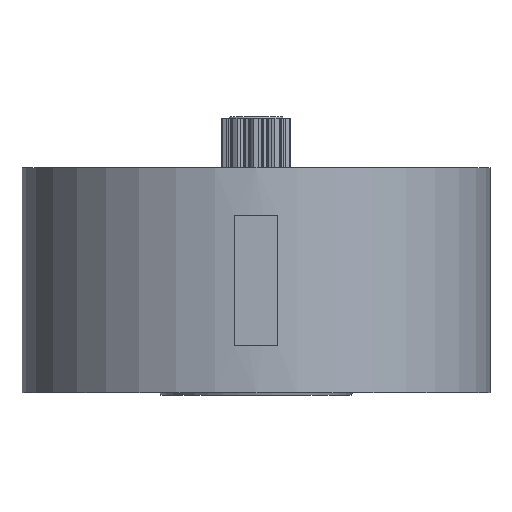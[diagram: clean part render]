
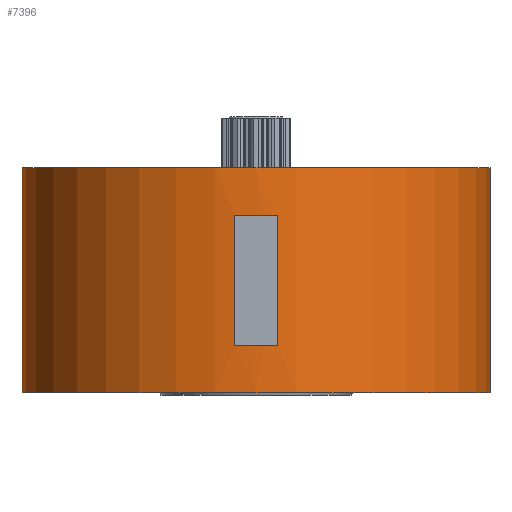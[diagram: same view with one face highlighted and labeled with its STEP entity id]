
A CAD part, front view. The second image highlights one B-rep face of the part: STEP entity #7396.
In plain terms, the highlighted cylindrical face has radius 27 mm (diameter 54 mm), a partial arc.
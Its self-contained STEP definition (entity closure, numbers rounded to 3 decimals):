
#200 = VERTEX_POINT ( 'NONE', #5334 ) ;
#337 = ORIENTED_EDGE ( 'NONE', *, *, #10873, .T. ) ;
#399 = EDGE_CURVE ( 'NONE', #5048, #7991, #8340, .T. ) ;
#451 = CARTESIAN_POINT ( 'NONE',  ( 0., 0., 13. ) ) ;
#528 = CARTESIAN_POINT ( 'NONE',  ( 0., 0., -13. ) ) ;
#1102 = VECTOR ( 'NONE', #6779, 1000. ) ;
#1525 = EDGE_CURVE ( 'NONE', #5048, #5588, #6934, .T. ) ;
#1539 = CARTESIAN_POINT ( 'NONE',  ( 0., 0., 7.5 ) ) ;
#1734 = DIRECTION ( 'NONE',  ( 0., 0., -1. ) ) ;
#1760 = EDGE_LOOP ( 'NONE', ( #8326, #4174, #3165, #337 ) ) ;
#1765 = CARTESIAN_POINT ( 'NONE',  ( 2.5, -26.884, -7.5 ) ) ;
#1854 = DIRECTION ( 'NONE',  ( -1., 0., 0. ) ) ;
#2198 = EDGE_CURVE ( 'NONE', #7991, #9820, #3423, .T. ) ;
#2272 = VECTOR ( 'NONE', #10233, 1000. ) ;
#2514 = DIRECTION ( 'NONE',  ( -1., 0., 0. ) ) ;
#2602 = DIRECTION ( 'NONE',  ( 1., 0., 0. ) ) ;
#2931 = AXIS2_PLACEMENT_3D ( 'NONE', #5391, #7265, #1854 ) ;
#2973 = DIRECTION ( 'NONE',  ( 1., 0., 0. ) ) ;
#2987 = CARTESIAN_POINT ( 'NONE',  ( 2.5, -26.884, 13. ) ) ;
#3084 = LINE ( 'NONE', #11118, #1102 ) ;
#3165 = ORIENTED_EDGE ( 'NONE', *, *, #10125, .T. ) ;
#3294 = ORIENTED_EDGE ( 'NONE', *, *, #1525, .T. ) ;
#3423 = CIRCLE ( 'NONE', #5424, 27. ) ;
#3631 = EDGE_CURVE ( 'NONE', #3881, #9856, #3084, .T. ) ;
#3881 = VERTEX_POINT ( 'NONE', #6275 ) ;
#4174 = ORIENTED_EDGE ( 'NONE', *, *, #4488, .F. ) ;
#4305 = CARTESIAN_POINT ( 'NONE',  ( -27., 0., 13. ) ) ;
#4488 = EDGE_CURVE ( 'NONE', #10431, #3881, #10024, .T. ) ;
#4500 = CARTESIAN_POINT ( 'NONE',  ( 27., 0., -13. ) ) ;
#4983 = CARTESIAN_POINT ( 'NONE',  ( -27., 0., 13. ) ) ;
#5048 = VERTEX_POINT ( 'NONE', #1765 ) ;
#5051 = LINE ( 'NONE', #6744, #2272 ) ;
#5119 = AXIS2_PLACEMENT_3D ( 'NONE', #5174, #11095, #2602 ) ;
#5143 = DIRECTION ( 'NONE',  ( 0., 0., -1. ) ) ;
#5174 = CARTESIAN_POINT ( 'NONE',  ( 0., 0., 13. ) ) ;
#5334 = CARTESIAN_POINT ( 'NONE',  ( -27., 0., -13. ) ) ;
#5391 = CARTESIAN_POINT ( 'NONE',  ( 0., 0., -7.5 ) ) ;
#5424 = AXIS2_PLACEMENT_3D ( 'NONE', #1539, #5143, #2514 ) ;
#5537 = ORIENTED_EDGE ( 'NONE', *, *, #399, .F. ) ;
#5588 = VERTEX_POINT ( 'NONE', #9796 ) ;
#5618 = CYLINDRICAL_SURFACE ( 'NONE', #7343, 27. ) ;
#5728 = DIRECTION ( 'NONE',  ( 0., 0., -1. ) ) ;
#5785 = FACE_BOUND ( 'NONE', #9415, .T. ) ;
#6275 = CARTESIAN_POINT ( 'NONE',  ( 27., 0., 13. ) ) ;
#6744 = CARTESIAN_POINT ( 'NONE',  ( -2.5, -26.884, 13. ) ) ;
#6779 = DIRECTION ( 'NONE',  ( 0., 0., -1. ) ) ;
#6934 = CIRCLE ( 'NONE', #2931, 27. ) ;
#7060 = CARTESIAN_POINT ( 'NONE',  ( -2.5, -26.884, 7.5 ) ) ;
#7087 = VECTOR ( 'NONE', #10004, 1000. ) ;
#7265 = DIRECTION ( 'NONE',  ( 0., 0., -1. ) ) ;
#7343 = AXIS2_PLACEMENT_3D ( 'NONE', #451, #5728, #9211 ) ;
#7396 = ADVANCED_FACE ( 'NONE', ( #9903, #5785 ), #5618, .T. ) ;
#7759 = CARTESIAN_POINT ( 'NONE',  ( 2.5, -26.884, 7.5 ) ) ;
#7954 = VECTOR ( 'NONE', #1734, 1000. ) ;
#7991 = VERTEX_POINT ( 'NONE', #7759 ) ;
#8326 = ORIENTED_EDGE ( 'NONE', *, *, #3631, .F. ) ;
#8340 = LINE ( 'NONE', #2987, #7087 ) ;
#8859 = EDGE_CURVE ( 'NONE', #5588, #9820, #5051, .T. ) ;
#9211 = DIRECTION ( 'NONE',  ( -1., 0., 0. ) ) ;
#9415 = EDGE_LOOP ( 'NONE', ( #10770, #5537, #3294, #10783 ) ) ;
#9551 = LINE ( 'NONE', #4305, #7954 ) ;
#9796 = CARTESIAN_POINT ( 'NONE',  ( -2.5, -26.884, -7.5 ) ) ;
#9820 = VERTEX_POINT ( 'NONE', #7060 ) ;
#9856 = VERTEX_POINT ( 'NONE', #4500 ) ;
#9903 = FACE_OUTER_BOUND ( 'NONE', #1760, .T. ) ;
#10004 = DIRECTION ( 'NONE',  ( 0., 0., 1. ) ) ;
#10024 = CIRCLE ( 'NONE', #5119, 27. ) ;
#10125 = EDGE_CURVE ( 'NONE', #10431, #200, #9551, .T. ) ;
#10150 = DIRECTION ( 'NONE',  ( 0., 0., 1. ) ) ;
#10233 = DIRECTION ( 'NONE',  ( 0., 0., 1. ) ) ;
#10316 = CIRCLE ( 'NONE', #10870, 27. ) ;
#10431 = VERTEX_POINT ( 'NONE', #4983 ) ;
#10770 = ORIENTED_EDGE ( 'NONE', *, *, #2198, .F. ) ;
#10783 = ORIENTED_EDGE ( 'NONE', *, *, #8859, .T. ) ;
#10870 = AXIS2_PLACEMENT_3D ( 'NONE', #528, #10150, #2973 ) ;
#10873 = EDGE_CURVE ( 'NONE', #200, #9856, #10316, .T. ) ;
#11095 = DIRECTION ( 'NONE',  ( 0., 0., 1. ) ) ;
#11118 = CARTESIAN_POINT ( 'NONE',  ( 27., 0., 13. ) ) ;
